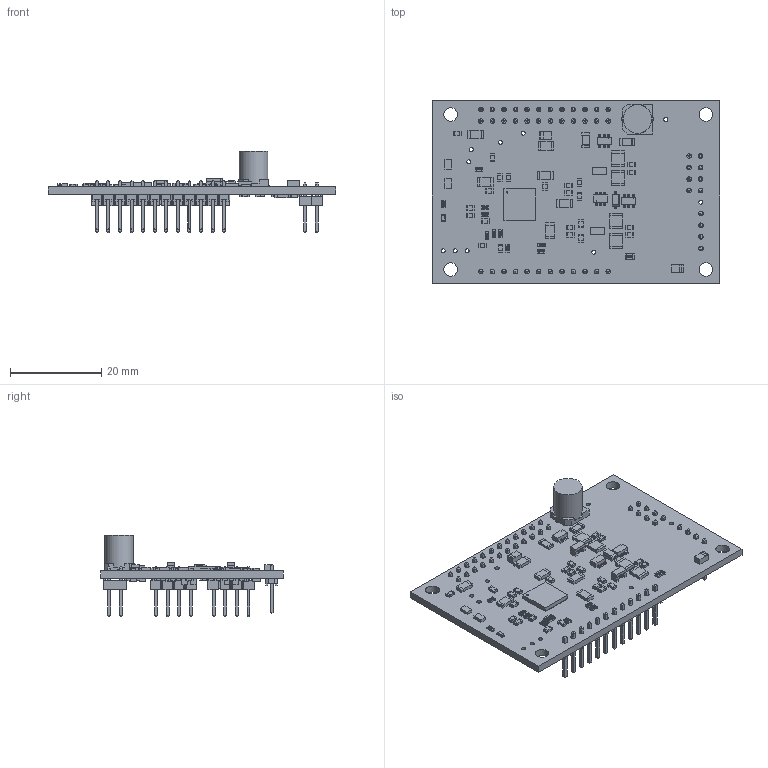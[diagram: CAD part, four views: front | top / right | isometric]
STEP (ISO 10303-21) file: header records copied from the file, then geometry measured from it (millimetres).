
FILE_DESCRIPTION(('Open CASCADE Model'),'2;1');
FILE_NAME('Open CASCADE Shape Model','2024-01-18T14:28:45',('Author'),( 'Open CASCADE'),'Open CASCADE STEP processor 6.8','Open CASCADE 6.8' ,'Unknown');
FILE_SCHEMA(('AUTOMOTIVE_DESIGN { 1 0 10303 214 1 1 1 1 }'));
Length unit declared in the file: millimetre
Products named in the file (197): PCB; Board; Open CASCADE STEP translator 6.8 1.1.1; J6; TSW-104-07-T-S; _TSW-104-07-T-S_body; _T-1S6-07-TSW-1-07-4-S; J5; TSW-104-07-F-D; T-1S6-07-TSW-1-07-4-D; TSW-104-07-F-D_body; Q3; SOIC_DV-T1-GE3_VIS; Q5; TSOP_EV-T1_GE3_VIS; R27; Resistor_0603_Text; Pin1Body; Pin2Body; CeramicBody; CoatingBody; Text1Body; Text2Body; Text3Body; Text4Body; R26; Resistor_0805_Text; D4; MMSZ5245B-E3-08; Body; FilletPinL; FilletPinR; C2; -1931807568; Extruded; -1931807128; C47; -1932221360; -1932221480; C49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
Assembly tree (385 placements, depth 4):
  PCB
    Board
      Open CASCADE STEP translator 6.8 1.1.1
    J6
      TSW-104-07-T-S
        _TSW-104-07-T-S_body
        _T-1S6-07-TSW-1-07-4-S
    J5
      TSW-104-07-F-D
        T-1S6-07-TSW-1-07-4-D
        TSW-104-07-F-D_body
    Q3
      SOIC_DV-T1-GE3_VIS
    Q5
      TSOP_EV-T1_GE3_VIS
    R27
      Resistor_0603_Text
        Pin1Body
        Pin2Body
        CeramicBody
        CoatingBody
        Text1Body
        Text2Body
        Text3Body
        Text4Body
    R26
      Resistor_0805_Text
        Pin1Body
        Pin2Body
        CeramicBody
        CoatingBody
        Text1Body
        Text2Body
        Text3Body
        Text4Body
    D4
      MMSZ5245B-E3-08
        Body
        FilletPinL
        FilletPinR
    C2
      -1931807568  x2
        Extruded
      -1931807128
        Extruded
    C47
      -1932221360  x2
        Extruded
      -1932221480
        Extruded
    C49
      -1931810368
        Extruded
      -1931809808  x2
        Extruded
    C8
      -1931810208
        Extruded
      -1931806568  x2
        Extruded
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Bounding box: 63 x 40 x 17.77 mm (x, y, z)
Volume: 5200.5 mm3; surface area: 10279.9 mm2
Topology: 440 solids, 484 shells, 7104 faces, 17585 edges, 11474 vertices
Faces by surface type: plane 5523, extrusion 1084, cylinder 371, torus 72, bspline 38, sphere 12, revolution 4
Full cylindrical faces by diameter (mm): 0.05 x92, 0.085 x3, 0.351 x1, 0.9 x12, 1 x47, 1.02 x1, 3 x4, 6.269 x1
Entity records: 114723 total; most frequent: CARTESIAN_POINT 20867, ORIENTED_EDGE 17080, DIRECTION 16326, EDGE_CURVE 8646, VECTOR 7896, LINE 7764, VERTEX_POINT 5544, AXIS2_PLACEMENT_3D 4213
